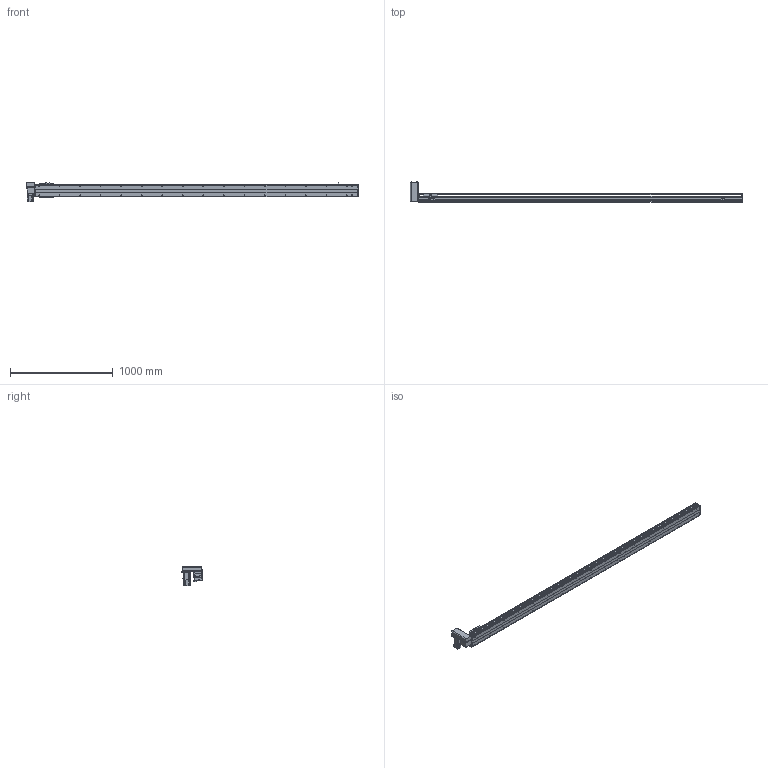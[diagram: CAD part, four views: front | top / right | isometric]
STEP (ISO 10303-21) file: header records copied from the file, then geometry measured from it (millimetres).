
FILE_DESCRIPTION(/* description */ ('STEP AP214'),/* implementation_level */ '2;1');
FILE_NAME(/* name */ 'PBS120-P40-S2850-RU-T40-C1-N(0)',/* time_stamp */ '2022-06-06T02:52:03+02:00',/* author */ ('License CC BY-ND 4.0'),/* organization */ ('CADENAS'),/* preprocessor_version */ 'ST-DEVELOPER v18.102',/* originating_system */ 'PARTsolutions',/* authorisation */ ' ');
FILE_SCHEMA (('AUTOMOTIVE_DESIGN {1 0 10303 214 3 1 1}'));
Length unit declared in the file: millimetre
Products named in the file (7): PBS120-P40-S2850-RU-T40-C1-N(0); PBS120_sensor; PBS120_plant; PBS120_sliser; T40-p1; PBS120T-RU_motors; PBS120-S2850()_body
Assembly tree (8 placements, depth 2):
  PBS120-P40-S2850-RU-T40-C1-N(0)
    PBS120_sensor  x3
    PBS120_plant
    PBS120_sliser
    T40-p1
    PBS120T-RU_motors
    PBS120-S2850()_body
Bounding box: 3236 x 198 x 189.7 mm (x, y, z)
Volume: 11982745.2 mm3; surface area: 2492505.5 mm2
Topology: 8 solids, 8 shells, 882 faces, 2246 edges, 1441 vertices
Faces by surface type: plane 567, cylinder 247, cone 66, torus 2
Full cylindrical faces by diameter (mm): 2.459 x6, 3.242 x4, 4 x2, 4.134 x4, 4.5 x10, 4.917 x38, 5.5 x11, 6 x2, 6.6 x1, 7 x2, 8.5 x4, 9 x4, 12 x1, 14 x1, 30 x2, 40 x1, 50 x2
Entity records: 22674 total; most frequent: DIRECTION 3956, CARTESIAN_POINT 3839, ORIENTED_EDGE 3610, EDGE_CURVE 1805, AXIS2_PLACEMENT_3D 1364, VERTEX_POINT 1247, LINE 1228, VECTOR 1228
